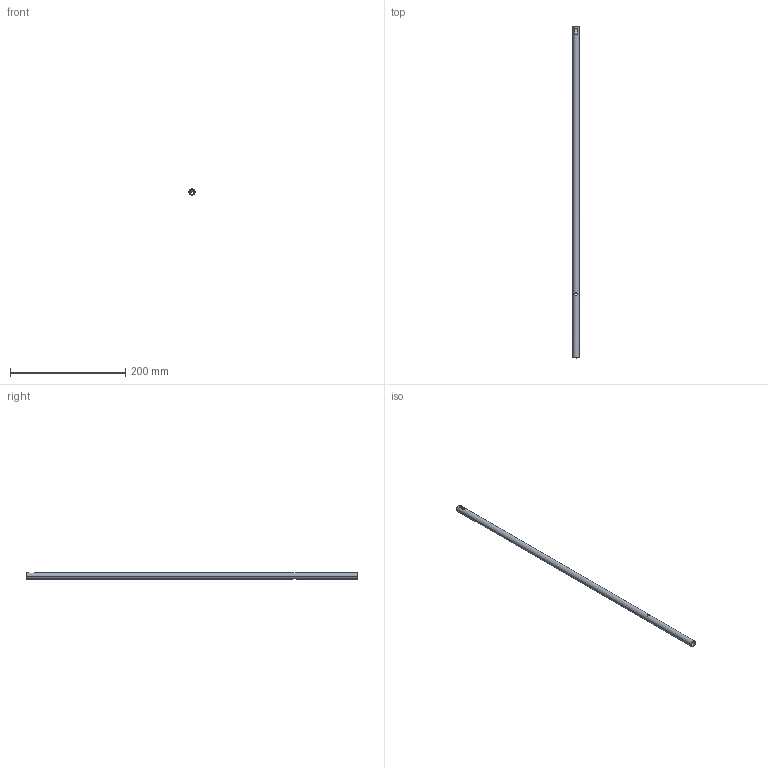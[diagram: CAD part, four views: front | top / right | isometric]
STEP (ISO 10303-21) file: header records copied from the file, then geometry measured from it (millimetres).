
FILE_DESCRIPTION (( 'STEP AP214' ), '1' );
FILE_NAME ('Relingsrohr-Frontstütze_P710701300_600.step', '2010-09-07T12:59:31', ( 'grass' ), ( '' ), 'SwSTEP 2.0', 'SolidWorks 2010', '' );
FILE_SCHEMA (( 'AUTOMOTIVE_DESIGN' ));
Length unit declared in the file: millimetre
Products named in the file (1): Relingsrohr-Frontstütze_P710701300_600
Bounding box: 11 x 576 x 11 mm (x, y, z)
Volume: 18032.9 mm3; surface area: 36215.2 mm2
Topology: 1 solids, 1 shells, 18 faces, 46 edges, 30 vertices
Faces by surface type: plane 10, cylinder 8
Entity records: 850 total; most frequent: CARTESIAN_POINT 351, ORIENTED_EDGE 92, DIRECTION 84, EDGE_CURVE 46, VERTEX_POINT 30, AXIS2_PLACEMENT_3D 29, VECTOR 26, LINE 26
